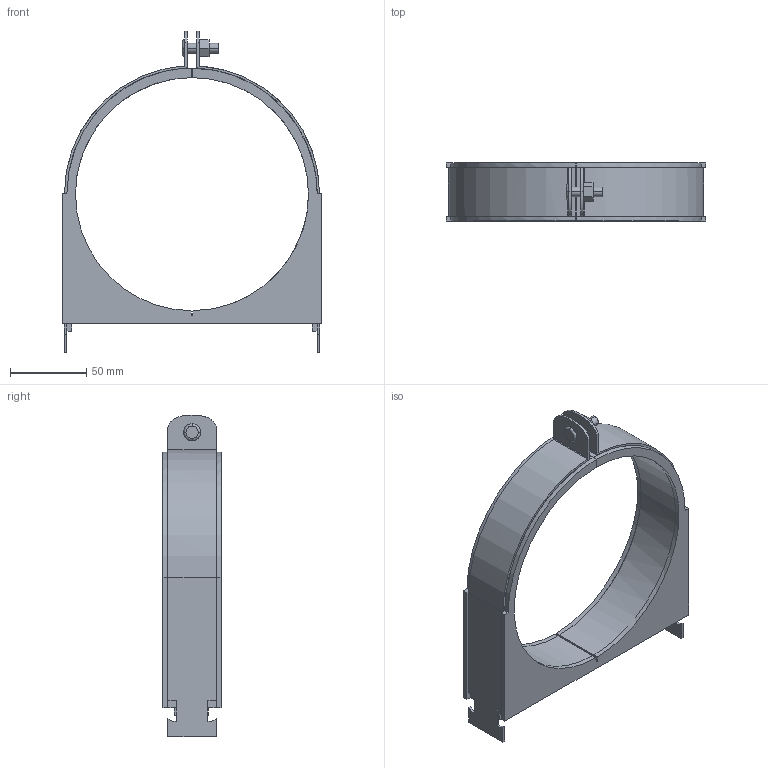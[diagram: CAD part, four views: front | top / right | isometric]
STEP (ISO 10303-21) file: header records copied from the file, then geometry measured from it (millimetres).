
FILE_DESCRIPTION(('TurboCAD Mac Pro'),'Build 980');
FILE_NAME('096N106.stp',' ',(''),(''),'ACIS Interop','IMSI','TurboCAD Mac Pro BY IMSI, INCORPORATED');
FILE_SCHEMA(('automotive_design'));
Length unit declared in the file: inch
Products named in the file (3): 1; 2; 3
Bounding box: 170.05 x 38.1 x 210.56 mm (x, y, z)
Volume: 266563.9 mm3; surface area: 90287.2 mm2
Topology: 3 solids, 3 shells, 150 faces, 396 edges, 256 vertices
Faces by surface type: plane 104, bspline 46
Entity records: 7236 total; most frequent: CARTESIAN_POINT 1777, ORIENTED_EDGE 792, DIRECTION 504, EDGE_CURVE 396, STYLED_ITEM 321, PRESENTATION_STYLE_ASSIGNMENT 321, COLOUR_RGB 321, LINE 282
